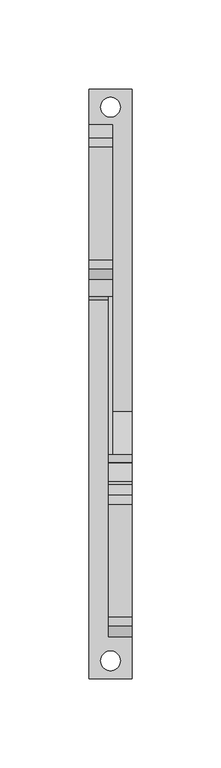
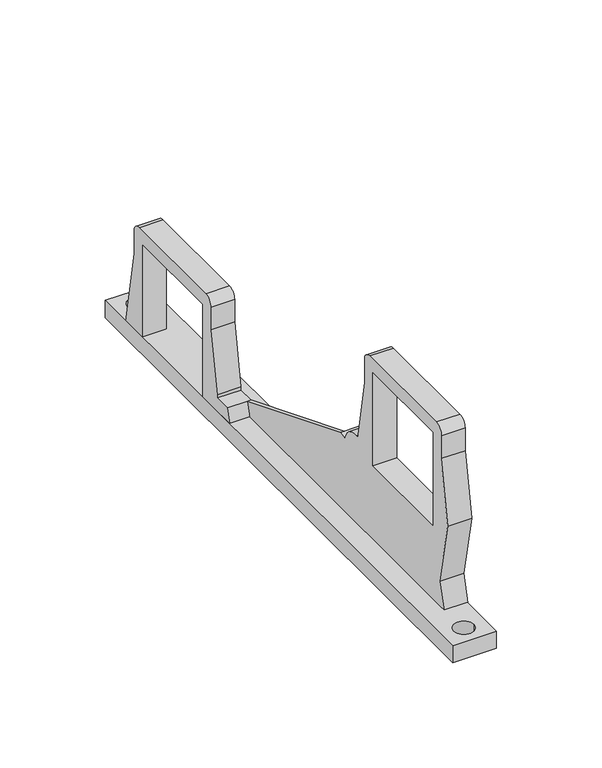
"""IFC4 building model written with IfcOpenShell, lengths in millimetres: proxy geometry, 400_56_KOMF_montagebeugel : 400_56_KOMF_montagebeugel."""

from ifc_helpers import new_model, si_unit, point, frame, frame_2d, origin, origin_with_axes, origin_2d, place, context, project, spatial, polyline, circle_curve, trimmed, segment, composite_curve, outline, extrude, source, transform, mapped, element, save
from ifc_brep_helpers import plane_surface, cylinder_surface, advanced_brep


def mechanical_equipment_2487834e(model_context):
    return source(origin(), model_context, "Body", "SolidModel", [
        extrude(outline(polyline([(-12.0, -10.0), (-12.0, 320.0), (12.0, 320.0), (12.0, -10.0), (-12.0, -10.0)]), holes=[composite_curve([segment(trimmed(circle_curve(origin_2d(), 5.5), [point((5.5, 0.0))], [point((-5.5, 0.0))], True, "CARTESIAN"), True, "CONTINUOUS"), segment(trimmed(circle_curve(origin_2d(), 5.5), [point((-5.5, 0.0))], [point((5.5, 0.0))], True, "CARTESIAN"), True, "CONTINUOUS")], self_intersect=False), composite_curve([segment(trimmed(circle_curve(frame_2d((0.0, 310.0)), 5.5), [point((-5.5, 310.0))], [point((5.5, 310.0))], True, "CARTESIAN"), True, "CONTINUOUS"), segment(trimmed(circle_curve(frame_2d((0.0, 310.0)), 5.5), [point((5.5, 310.0))], [point((-5.5, 310.0))], True, "CARTESIAN"), True, "CONTINUOUS")], self_intersect=False)]), origin_with_axes(), (0.0, 0.0, 1.0), 10.0),
        advanced_brep(
        [(-12.0, 292.6708075, 53.9751553), (-12.0, 300.3744843, 10.0), (-12.0, 284.7204969, 10.0), (-12.0, 284.7204969, 64.0), (-12.0, 227.5776398, 64.0), (-12.0, 227.5776398, 10.0), (-12.0, 201.9047619, 10.0), (-12.0, 204.2236025, 17.9503106), (-12.0, 213.6645963, 17.9503106), (-12.0, 213.6645963, 19.9378882), (-12.0, 219.6273292, 53.9751553), (-12.0, 219.6273292, 66.8944099), (-12.0, 224.5962733, 71.863354), (-12.0, 287.7018634, 71.863354), (-12.0, 292.6708075, 66.8944099), (1.0, 292.6708075, 53.9751553), (1.0, 292.6708075, 66.8944099), (1.0, 287.7018634, 71.863354), (1.0, 224.5962733, 71.863354), (1.0, 219.6273292, 66.8944099), (1.0, 219.6273292, 53.9751553), (1.0, 213.6645963, 19.9378882), (1.0, 213.6645963, 17.9503106), (1.0, 204.2236025, 17.9503106), (1.0, 115.5279503, 53.7267081), (1.0, 139.8333924, 10.0), (1.0, 227.5776398, 10.0), (1.0, 227.5776398, 64.0), (1.0, 284.7204969, 64.0), (1.0, 284.7204969, 10.0), (1.0, 300.3744843, 10.0), (-1.0, 204.2236025, 17.9503106), (-1.0, 201.9047619, 10.0), (-1.0, 115.5279503, 53.7267081), (12.0, 92.6708075, 96.7080745), (12.0, 92.6708075, 109.8757764), (12.0, 87.7018634, 114.8447205), (12.0, 24.5962733, 114.8447205), (12.0, 19.6273292, 109.8757764), (12.0, 19.6273292, 96.7080745), (12.0, 13.3603054, 61.1949399), (12.0, 21.1316727, 24.5584939), (12.0, 17.0876467, 10.0), (12.0, 139.8333924, 10.0), (12.0, 115.5279503, 53.7267081), (12.0, 111.0495302, 52.758401), (12.0, 110.8074534, 53.7267081), (12.0, 100.3726708, 60.931677), (12.0, 98.6335404, 60.931677), (12.0, 98.6335404, 62.9192547), (12.0, 84.6490683, 107.0), (12.0, 84.6490683, 53.0), (12.0, 27.6490683, 53.0), (12.0, 27.6490683, 107.0), (-1.0, 92.6708075, 96.7080745), (-1.0, 98.6335404, 62.9192547), (-1.0, 98.6335404, 60.931677), (-1.0, 100.3726708, 60.931677), (-1.0, 110.8074534, 53.7267081), (-1.0, 111.0495302, 52.758401), (-1.0, 17.0876467, 10.0), (-1.0, 21.1316727, 24.5584939), (-1.0, 13.3603054, 61.1949399), (-1.0, 19.6273292, 96.7080745), (-1.0, 19.6273292, 109.8757764), (-1.0, 24.5962733, 114.8447205), (-1.0, 87.7018634, 114.8447205), (-1.0, 92.6708075, 109.8757764), (-1.0, 84.6490683, 53.0), (-1.0, 84.6490683, 107.0), (-1.0, 27.6490683, 107.0), (-1.0, 27.6490683, 53.0)],
        [
            (0, 1),
            (1, 2),
            (2, 3),
            (3, 4),
            (4, 5),
            (5, 6),
            (6, 7),
            (7, 8),
            (8, 9),
            (9, 10),
            (10, 11),
            (11, 12, circle_curve(frame((-12.0, 224.5962733, 66.8944099), z_axis=(-1.0, 0.0, 0.0), x_axis=(0.0, 0.0, -1.0)), 4.9689441)),
            (12, 13),
            (13, 14, circle_curve(frame((-12.0, 287.7018634, 66.8944099), z_axis=(-1.0, 0.0, 0.0), x_axis=(0.0, 0.0, -1.0)), 4.9689441)),
            (14, 0),
            (15, 16),
            (16, 17, circle_curve(frame((1.0, 287.7018634, 66.8944099), z_axis=(1.0, 0.0, 0.0), x_axis=(0.0, 0.0, -1.0)), 4.9689441)),
            (17, 18),
            (18, 19, circle_curve(frame((1.0, 224.5962733, 66.8944099), z_axis=(1.0, 0.0, 0.0), x_axis=(0.0, 0.0, -1.0)), 4.9689441)),
            (19, 20),
            (20, 21),
            (21, 22),
            (22, 23),
            (23, 24),
            (24, 25),
            (25, 26),
            (26, 27),
            (27, 28),
            (28, 29),
            (29, 30),
            (30, 15),
            (14, 16),
            (15, 0),
            (13, 17),
            (12, 18),
            (11, 19),
            (10, 20),
            (9, 21),
            (8, 22),
            (7, 31),
            (31, 23),
            (6, 32),
            (32, 31),
            (4, 27),
            (26, 5),
            (3, 28),
            (2, 29),
            (1, 30),
            (31, 33),
            (33, 24),
            (34, 35),
            (35, 36, circle_curve(frame((12.0, 87.7018634, 109.8757764), z_axis=(1.0, 0.0, 0.0), x_axis=(0.0, 0.0, -1.0)), 4.9689441)),
            (36, 37),
            (37, 38, circle_curve(frame((12.0, 24.5962733, 109.8757764), z_axis=(1.0, 0.0, 0.0), x_axis=(0.0, 0.0, -1.0)), 4.9689441)),
            (38, 39),
            (39, 40),
            (40, 41),
            (41, 42),
            (42, 43),
            (43, 44),
            (44, 45),
            (45, 46),
            (46, 47, circle_curve(frame((12.0, 101.4951517, 51.3986326), z_axis=(1.0, 0.0, 0.0), x_axis=(0.0, 0.0, -1.0)), 9.5989009)),
            (47, 48),
            (48, 49),
            (49, 34),
            (50, 51),
            (51, 52),
            (52, 53),
            (53, 50),
            (54, 55),
            (55, 56),
            (56, 57),
            (57, 58, circle_curve(frame((-1.0, 101.4951517, 51.3986326), z_axis=(-1.0, 0.0, 0.0), x_axis=(0.0, 0.0, -1.0)), 9.5989009)),
            (58, 59),
            (59, 33),
            (32, 60),
            (60, 61),
            (61, 62),
            (62, 63),
            (63, 64),
            (64, 65, circle_curve(frame((-1.0, 24.5962733, 109.8757764), z_axis=(-1.0, 0.0, 0.0), x_axis=(0.0, 0.0, -1.0)), 4.9689441)),
            (65, 66),
            (66, 67, circle_curve(frame((-1.0, 87.7018634, 109.8757764), z_axis=(-1.0, 0.0, 0.0), x_axis=(0.0, 0.0, -1.0)), 4.9689441)),
            (67, 54),
            (68, 69),
            (69, 70),
            (70, 71),
            (71, 68),
            (34, 54),
            (67, 35),
            (66, 36),
            (65, 37),
            (64, 38),
            (63, 39),
            (62, 40),
            (61, 41),
            (60, 42),
            (25, 43),
            (24, 44),
            (59, 45),
            (58, 46),
            (47, 57),
            (56, 48),
            (55, 49),
            (50, 69),
            (68, 51),
            (53, 70),
            (52, 71),
        ],
        [
            plane_surface(frame((-12.0, 292.6708075, 53.9751553), z_axis=(-1.0, 0.0, 0.0), x_axis=(0.0, 0.0, -1.0))),
            plane_surface(frame((1.0, 292.6708075, 53.9751553), z_axis=(1.0, 0.0, 0.0), x_axis=(0.0, 0.0, 1.0))),
            plane_surface(frame((1.0, 292.6708075, 53.9751553), z_axis=(0.0, 1.0, 0.0), x_axis=(-1.0, 0.0, 0.0))),
            cylinder_surface(frame((-12.0, 287.7018634, 66.8944099), z_axis=(1.0, 0.0, 0.0), x_axis=(0.0, 0.0, -1.0)), 4.9689441),
            plane_surface(frame((1.0, 287.7018634, 71.863354), z_axis=(0.0, 0.0, 1.0), x_axis=(-1.0, 0.0, 0.0))),
            cylinder_surface(frame((-12.0, 224.5962733, 66.8944099), z_axis=(1.0, 0.0, 0.0), x_axis=(0.0, 0.0, -1.0)), 4.9689441),
            plane_surface(frame((1.0, 219.6273292, 66.8944099), z_axis=(0.0, -1.0, 0.0), x_axis=(-1.0, 0.0, 0.0))),
            plane_surface(frame((1.0, 219.6273292, 53.9751553), z_axis=(0.0, -0.9849999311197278, 0.17255473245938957), x_axis=(-1.0, 0.0, 0.0))),
            plane_surface(frame((1.0, 213.6645963, 19.9378882), z_axis=(0.0, -1.0, 0.0), x_axis=(-1.0, 0.0, 0.0))),
            plane_surface(frame((1.0, 213.6645963, 17.9503106), z_axis=(0.0, 0.0, 1.0), x_axis=(-1.0, 0.0, 0.0))),
            plane_surface(frame((1.0, 204.2236025, 17.9503106), z_axis=(0.0, -0.9599999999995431, 0.2800000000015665), x_axis=(-1.0, 0.0, 0.0))),
            plane_surface(frame((1.0, 227.5776398, 10.0), z_axis=(0.0, 1.0, 0.0), x_axis=(-1.0, 0.0, 0.0))),
            plane_surface(frame((1.0, 227.5776398, 64.0), z_axis=(0.0, 0.0, -1.0), x_axis=(-1.0, 0.0, 0.0))),
            plane_surface(frame((1.0, 284.7204969, 64.0), z_axis=(0.0, -1.0, 0.0), x_axis=(-1.0, 0.0, 0.0))),
            plane_surface(frame((1.0, 284.7204969, 10.0), z_axis=(0.0, 0.0, -1.0), x_axis=(-1.0, 0.0, 0.0))),
            plane_surface(frame((1.0, 300.3744843, 10.0), z_axis=(0.0, 0.9849999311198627, 0.1725547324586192), x_axis=(-1.0, 0.0, 0.0))),
            plane_surface(frame((1.0, 204.2236025, 17.9503106), z_axis=(0.0, 0.37407645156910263, 0.9273978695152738), x_axis=(-1.0, 0.0, 0.0))),
            plane_surface(frame((12.0, 92.6708075, 96.7080745), z_axis=(1.0, 0.0, 0.0), x_axis=(0.0, 0.0, 1.0))),
            plane_surface(frame((-1.0, 92.6708075, 96.7080745), z_axis=(-1.0, 0.0, 0.0), x_axis=(0.0, 0.0, -1.0))),
            plane_surface(frame((12.0, 92.6708075, 96.7080745), z_axis=(0.0, 1.0, 0.0), x_axis=(-1.0, 0.0, 0.0))),
            cylinder_surface(frame((-1.0, 87.7018634, 109.8757764), z_axis=(1.0, 0.0, 0.0), x_axis=(0.0, 0.0, -1.0)), 4.9689441),
            plane_surface(frame((12.0, 87.7018634, 114.8447205), z_axis=(0.0, 0.0, 1.0), x_axis=(-1.0, 0.0, 0.0))),
            cylinder_surface(frame((-1.0, 24.5962733, 109.8757764), z_axis=(1.0, 0.0, 0.0), x_axis=(0.0, 0.0, -1.0)), 4.9689441),
            plane_surface(frame((12.0, 19.6273292, 109.8757764), z_axis=(0.0, -1.0, 0.0), x_axis=(-1.0, 0.0, 0.0))),
            plane_surface(frame((12.0, 19.6273292, 96.7080745), z_axis=(0.0, -0.9847835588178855, 0.17378533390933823), x_axis=(-1.0, 0.0, 0.0))),
            plane_surface(frame((12.0, 13.3603054, 61.1949399), z_axis=(0.0, -0.9782341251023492, -0.20750420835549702), x_axis=(-1.0, 0.0, 0.0))),
            plane_surface(frame((12.0, 21.1316727, 24.5584939), z_axis=(0.0, -0.9635179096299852, 0.26764386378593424), x_axis=(-1.0, 0.0, 0.0))),
            plane_surface(frame((12.0, 17.0876467, 10.0), z_axis=(0.0, 0.0, -1.0), x_axis=(-1.0, 0.0, 0.0))),
            plane_surface(frame((12.0, 139.8333924, 10.0), z_axis=(0.0, 0.8740484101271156, 0.4858388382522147), x_axis=(-1.0, 0.0, 0.0))),
            plane_surface(frame((12.0, 115.5279503, 53.7267081), z_axis=(0.0, -0.2113327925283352, 0.9774141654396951), x_axis=(-1.0, 0.0, 0.0))),
            plane_surface(frame((12.0, 111.0495302, 52.758401), z_axis=(0.0, 0.970142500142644, 0.24253562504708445), x_axis=(-1.0, 0.0, 0.0))),
            plane_surface(frame((12.0, 100.3726708, 60.931677), z_axis=(0.0, 0.0, 1.0), x_axis=(-1.0, 0.0, 0.0))),
            plane_surface(frame((12.0, 98.6335404, 60.931677), z_axis=(0.0, 1.0, 0.0), x_axis=(-1.0, 0.0, 0.0))),
            plane_surface(frame((12.0, 98.6335404, 62.9192547), z_axis=(0.0, 0.9847835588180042, 0.17378533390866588), x_axis=(-1.0, 0.0, 0.0))),
            cylinder_surface(frame((-1.0, 101.4951517, 51.3986326), z_axis=(1.0, 0.0, 0.0), x_axis=(0.0, 0.0, -1.0)), 9.5989009),
            plane_surface(frame((12.0, 84.6490683, 53.0), z_axis=(0.0, -1.0, 0.0), x_axis=(-1.0, 0.0, 0.0))),
            plane_surface(frame((12.0, 84.6490683, 107.0), z_axis=(0.0, 0.0, -1.0), x_axis=(-1.0, 0.0, 0.0))),
            plane_surface(frame((12.0, 27.6490683, 107.0), z_axis=(0.0, 1.0, 0.0), x_axis=(-1.0, 0.0, 0.0))),
            plane_surface(frame((12.0, 27.6490683, 53.0), z_axis=(0.0, 0.0, 1.0), x_axis=(-1.0, 0.0, 0.0))),
        ],
        [
            (0, [[1, 2, 3, 4, 5, 6, 7, 8, 9, 10, 11, 12, 13, 14, 15]]),
            (1, [[16, 17, 18, 19, 20, 21, 22, 23, 24, 25, 26, 27, 28, 29, 30, 31]]),
            (2, [[-15, 32, -16, 33]]),
            (3, [[-14, 34, -17, -32]]),
            (4, [[-13, 35, -18, -34]]),
            (5, [[-12, 36, -19, -35]]),
            (6, [[-11, 37, -20, -36]]),
            (7, [[-10, 38, -21, -37]]),
            (8, [[-9, 39, -22, -38]]),
            (9, [[-8, 40, 41, -23, -39]]),
            (10, [[-7, 42, 43, -40]]),
            (11, [[-5, 44, -27, 45]]),
            (12, [[-4, 46, -28, -44]]),
            (13, [[-3, 47, -29, -46]]),
            (14, [[-2, 48, -30, -47]]),
            (15, [[-1, -33, -31, -48]]),
            (16, [[49, 50, -24, -41]]),
            (17, [[51, 52, 53, 54, 55, 56, 57, 58, 59, 60, 61, 62, 63, 64, 65, 66], [67, 68, 69, 70]]),
            (18, [[71, 72, 73, 74, 75, 76, -49, -43, 77, 78, 79, 80, 81, 82, 83, 84, 85], [86, 87, 88, 89]]),
            (19, [[-51, 90, -85, 91]]),
            (20, [[-52, -91, -84, 92]]),
            (21, [[-53, -92, -83, 93]]),
            (22, [[-54, -93, -82, 94]]),
            (23, [[-55, -94, -81, 95]]),
            (24, [[-56, -95, -80, 96]]),
            (25, [[-57, -96, -79, 97]]),
            (26, [[-58, -97, -78, 98]]),
            (27, [[-59, -98, -77, -42, -6, -45, -26, 99]]),
            (28, [[-60, -99, -25, 100]]),
            (29, [[-61, -100, -50, -76, 101]]),
            (30, [[-62, -101, -75, 102]]),
            (31, [[-64, 103, -73, 104]]),
            (32, [[-65, -104, -72, 105]]),
            (33, [[-66, -105, -71, -90]]),
            (34, [[-63, -102, -74, -103]]),
            (35, [[106, -86, 107, -67]]),
            (36, [[-106, -70, 108, -87]]),
            (37, [[-108, -69, 109, -88]]),
            (38, [[-107, -89, -109, -68]]),
        ],
    ),
    ])


if __name__ == "__main__":
    model = new_model("IFC4")
    model_context = context("Model", 3, world=origin())
    ifc_project = project(units=[si_unit("LENGTHUNIT", "METRE", prefix="MILLI")], contexts=[model_context])
    site = spatial("IfcSite", under=ifc_project)
    building = spatial("IfcBuilding", under=site)
    placement = place(None, origin())
    mechanical_equipment_shape = mechanical_equipment_2487834e(model_context)
    element("IfcBuildingElementProxy", 1, Name="400_56_KOMF_montagebeugel : 400_56_KOMF_montagebeugel", ObjectType="400_56_KOMF_montagebeugel : 400_56_KOMF_montagebeugel", at=placement, inside=building, context=model_context, shape_type="MappedRepresentation", body=[
        mapped(mechanical_equipment_shape, transform((0.0, 0.0, 0.0), x_axis=(1.0, 0.0, 0.0), y_axis=(0.0, 1.0, 0.0), z_axis=(0.0, 0.0, 1.0))),
    ])
    save(model, "model.ifc")
